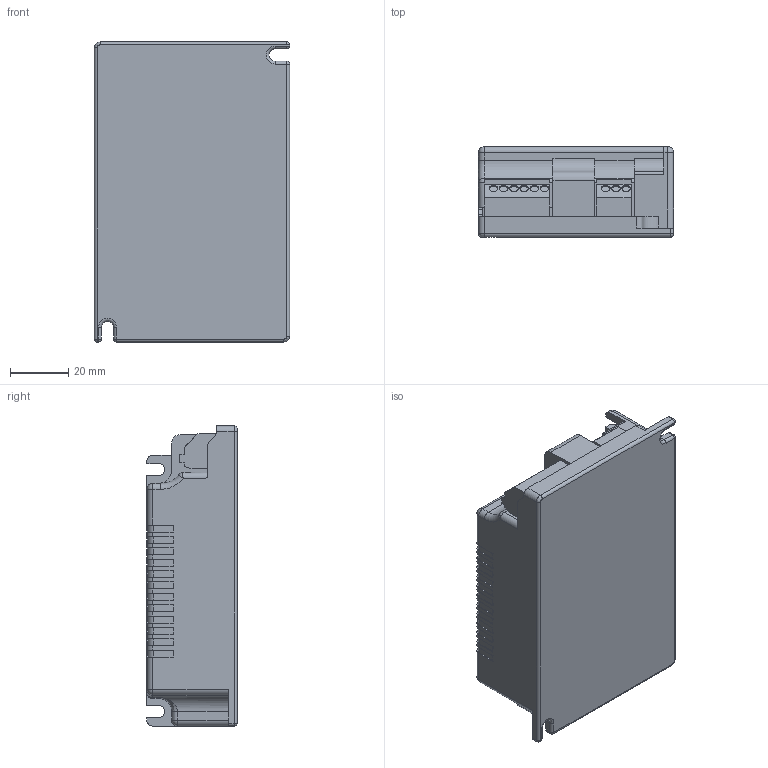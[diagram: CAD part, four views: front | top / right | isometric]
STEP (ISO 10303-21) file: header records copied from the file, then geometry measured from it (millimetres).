
FILE_DESCRIPTION((''),'2;1');
FILE_NAME('15006767Z','2011-11-15T',('juergen.hrach'),(''),'PRO/ENGINEER BY PARAMETRIC TECHNOLOGY CORPORATION, 2010480','PRO/ENGINEER BY PARAMETRIC TECHNOLOGY CORPORATION, 2010480','');
FILE_SCHEMA(('AUTOMOTIVE_DESIGN { 1 2 10303 214 0 1 1 1 }'));
Length unit declared in the file: millimetre
Products named in the file (1): 15006767Z
Bounding box: 67 x 31 x 103 mm (x, y, z)
Volume: 186265.8 mm3; surface area: 25153.9 mm2
Topology: 1 solids, 1 shells, 462 faces, 1261 edges, 822 vertices
Faces by surface type: plane 211, cylinder 144, extrusion 86, sphere 13, torus 5, bspline 3
Entity records: 19702 total; most frequent: CARTESIAN_POINT 3574, ORIENTED_EDGE 2522, DIRECTION 2217, PRESENTATION_STYLE_ASSIGNMENT 1312, STYLED_ITEM 1262, CURVE_STYLE 1261, EDGE_CURVE 1261, VECTOR 875
